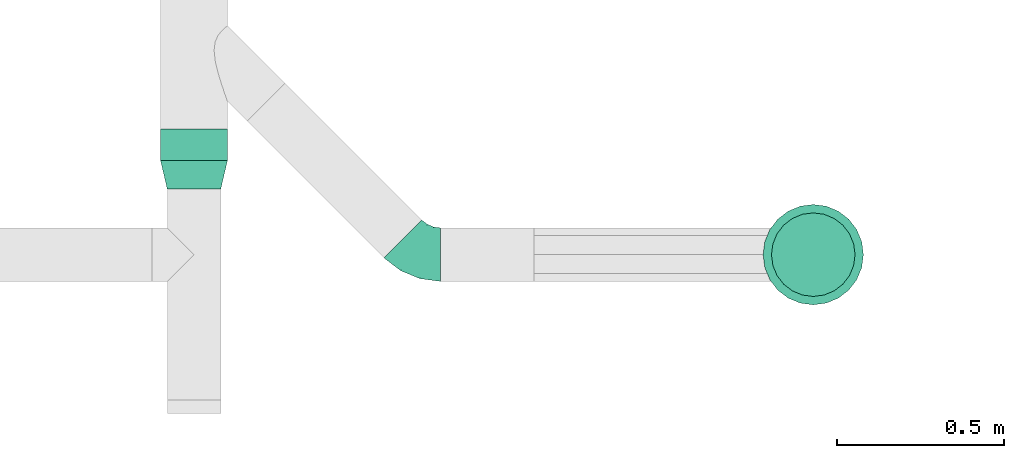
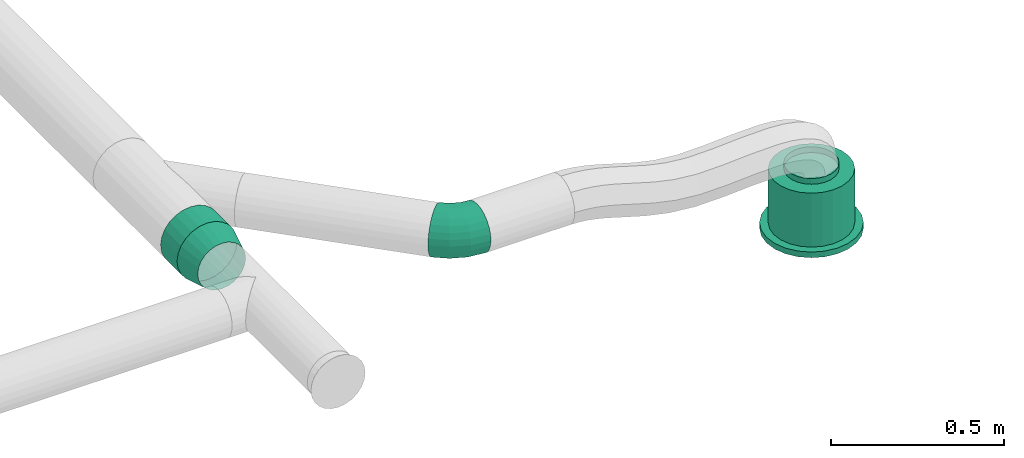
# One storey, part 9 of 119: 2 flow fittings, 1 flow segment, 1 flow terminal.
"""IFC2X3 building model written with IfcOpenShell, lengths in metres."""

from ifc_helpers import new_model, si_unit, direction, frame, origin, place, context, subcontext, project, spatial, open_shell, surface_model, source, transform, mapped, element, save


model = new_model("IFC2X3")

# Units and contexts
model_context = context("Model", 3, precision=1e-05, world=origin(), true_north=direction((-0.4480736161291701, 0.8939966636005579)))
body_context = subcontext(model_context, "Body", "Model", "MODEL_VIEW")
ifc_project = project(units=[si_unit("LENGTHUNIT", "METRE"), si_unit("AREAUNIT", "SQUARE_METRE"), si_unit("VOLUMEUNIT", "CUBIC_METRE"), si_unit("PLANEANGLEUNIT", "RADIAN"), si_unit("THERMODYNAMICTEMPERATUREUNIT", "KELVIN"), si_unit("MASSUNIT", "GRAM", prefix="KILO"), si_unit("TIMEUNIT", "SECOND")], contexts=[model_context])

# Site, building, storey
site_placement = place(None, origin())
site = spatial("IfcSite", under=ifc_project, at=site_placement, Name="Site 1", CompositionType="ELEMENT")
building_placement = place(site_placement, origin())
building = spatial("IfcBuilding", under=site, at=building_placement, Name="Undefined", CompositionType="ELEMENT")
storey_placement = place(building_placement, frame((0.0, 0.0, 5.4)))
storey = spatial("IfcBuildingStorey", under=building, at=storey_placement, Name="R+1", CompositionType="ELEMENT", Elevation=5.4)

# Flow terminal
shared_shape_1 = source(origin(), body_context, "Body", "SurfaceModel", [
    surface_model("IfcFaceBasedSurfaceModel", [(0.0, 0.0, 0.0), (0.03915785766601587, 0.0, 0.0), (0.03915785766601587, 0.020000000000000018, 0.0), (3.552713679e-15, 0.020000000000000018, 0.0), (0.07698144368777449, 0.0, -0.010134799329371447), (0.07698144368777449, 0.020000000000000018, -0.010134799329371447), (0.11089314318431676, 0.0, -0.02971372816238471), (0.11089314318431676, 0.020000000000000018, -0.02971372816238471), (0.13858192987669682, 0.0, -0.05740251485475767), (0.13858192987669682, 0.020000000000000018, -0.05740251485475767), (0.15816085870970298, 0.0, -0.09131421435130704), (0.15816085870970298, 0.020000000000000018, -0.09131421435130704), (0.16829565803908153, 0.0, -0.12913780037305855), (0.16829565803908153, 0.020000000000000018, -0.12913780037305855), (0.16829565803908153, 0.0, -0.16829565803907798), (0.16829565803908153, 0.020000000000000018, -0.16829565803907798), (0.15816085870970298, 0.0, -0.20611924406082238), (0.15816085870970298, 0.020000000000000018, -0.20611924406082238), (0.13858192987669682, 0.0, -0.24003094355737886), (0.13858192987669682, 0.020000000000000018, -0.24003094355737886), (0.11089314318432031, 0.0, -0.2677197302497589), (0.11089314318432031, 0.020000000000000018, -0.2677197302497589), (0.07698144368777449, 0.0, -0.2872986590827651), (0.07698144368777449, 0.020000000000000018, -0.2872986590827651), (0.039157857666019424, 0.0, -0.29743345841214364), (0.039157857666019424, 0.020000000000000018, -0.29743345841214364), (3.552713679e-15, 0.0, -0.29743345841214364), (3.552713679e-15, 0.020000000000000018, -0.29743345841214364), (-0.03782358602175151, 0.0, -0.2872986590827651), (-0.03782358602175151, 0.020000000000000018, -0.2872986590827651), (-0.07173528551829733, 0.0, -0.2677197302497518), (-0.07173528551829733, 0.020000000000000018, -0.2677197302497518), (-0.0994240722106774, 0.0, -0.24003094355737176), (-0.0994240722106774, 0.020000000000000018, -0.24003094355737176), (-0.11900300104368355, 0.0, -0.2061192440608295), (-0.11900300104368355, 0.020000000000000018, -0.2061192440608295), (-0.1291378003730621, 0.0, -0.16829565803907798), (-0.1291378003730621, 0.020000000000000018, -0.16829565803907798), (-0.1291378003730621, 0.0, -0.12913780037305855), (-0.1291378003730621, 0.020000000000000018, -0.12913780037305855), (-0.11900300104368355, 0.0, -0.09131421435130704), (-0.11900300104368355, 0.020000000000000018, -0.09131421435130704), (-0.0994240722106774, 0.0, -0.05740251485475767), (-0.0994240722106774, 0.020000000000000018, -0.05740251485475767), (-0.07173528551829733, 0.0, -0.029713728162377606), (-0.07173528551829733, 0.020000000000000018, -0.029713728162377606), (-0.03782358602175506, 0.0, -0.010134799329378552), (-0.03782358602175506, 0.020000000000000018, -0.010134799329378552), (0.019578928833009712, 0.0, -0.14871672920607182), (0.019578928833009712, 0.020000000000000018, -0.14871672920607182), (0.003263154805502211, 0.020000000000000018, -0.02478612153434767), (0.035894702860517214, 0.020000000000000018, -0.02478612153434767), (0.035894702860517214, 0.20999999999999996, -0.02478612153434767), (0.003263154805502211, 0.20999999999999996, -0.02478612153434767), (0.06741435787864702, 0.020000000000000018, -0.033231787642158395), (0.06741435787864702, 0.20999999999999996, -0.033231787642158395), (0.0956741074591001, 0.020000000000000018, -0.04954756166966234), (0.0956741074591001, 0.20999999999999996, -0.04954756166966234), (0.11874809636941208, 0.020000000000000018, -0.07262155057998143), (0.11874809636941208, 0.20999999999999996, -0.07262155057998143), (0.13506387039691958, 0.020000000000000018, -0.10088130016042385), (0.13506387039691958, 0.20999999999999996, -0.10088130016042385), (0.1435095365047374, 0.020000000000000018, -0.13240095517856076), (0.1435095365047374, 0.20999999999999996, -0.13240095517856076), (0.1435095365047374, 0.020000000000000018, -0.16503250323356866), (0.1435095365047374, 0.20999999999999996, -0.16503250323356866), (0.13506387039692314, 0.020000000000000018, -0.19655215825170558), (0.13506387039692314, 0.20999999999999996, -0.19655215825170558), (0.11874809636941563, 0.020000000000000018, -0.2248119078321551), (0.11874809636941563, 0.20999999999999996, -0.2248119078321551), (0.09567410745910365, 0.020000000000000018, -0.24788589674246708), (0.09567410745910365, 0.20999999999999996, -0.24788589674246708), (0.06741435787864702, 0.020000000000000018, -0.26420167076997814), (0.06741435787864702, 0.20999999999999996, -0.26420167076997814), (0.035894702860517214, 0.020000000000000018, -0.27264733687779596), (0.035894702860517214, 0.20999999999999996, -0.27264733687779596), (0.0032631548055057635, 0.020000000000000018, -0.27264733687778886), (0.0032631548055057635, 0.20999999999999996, -0.27264733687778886), (-0.028256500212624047, 0.020000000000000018, -0.26420167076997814), (-0.028256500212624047, 0.20999999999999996, -0.26420167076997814), (-0.05651624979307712, 0.020000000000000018, -0.2478858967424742), (-0.05651624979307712, 0.20999999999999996, -0.2478858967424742), (-0.07959023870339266, 0.020000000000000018, -0.2248119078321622), (-0.07959023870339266, 0.20999999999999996, -0.2248119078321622), (-0.09590601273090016, 0.020000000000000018, -0.19655215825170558), (-0.09590601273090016, 0.20999999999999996, -0.19655215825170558), (-0.10435167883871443, 0.020000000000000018, -0.16503250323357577), (-0.10435167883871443, 0.20999999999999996, -0.16503250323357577), (-0.10435167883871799, 0.020000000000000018, -0.13240095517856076), (-0.10435167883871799, 0.20999999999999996, -0.13240095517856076), (-0.09590601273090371, 0.020000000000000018, -0.10088130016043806), (-0.09590601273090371, 0.20999999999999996, -0.10088130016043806), (-0.07959023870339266, 0.020000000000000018, -0.07262155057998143), (-0.07959023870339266, 0.20999999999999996, -0.07262155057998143), (-0.056516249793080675, 0.020000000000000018, -0.04954756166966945), (-0.056516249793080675, 0.20999999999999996, -0.04954756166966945), (-0.028256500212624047, 0.020000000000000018, -0.033231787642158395), (-0.028256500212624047, 0.20999999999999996, -0.033231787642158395), (0.019578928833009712, 0.20999999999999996, -0.14871672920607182), (0.009136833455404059, 0.20999999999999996, -0.06940114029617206), (0.030021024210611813, 0.20999999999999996, -0.06940114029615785), (0.030021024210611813, 0.22999999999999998, -0.06940114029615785), (0.009136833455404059, 0.22999999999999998, -0.06940114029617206), (0.05019360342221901, 0.20999999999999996, -0.07480636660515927), (0.05019360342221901, 0.22999999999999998, -0.07480636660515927), (0.06827984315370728, 0.20999999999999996, -0.08524846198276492), (0.06827984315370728, 0.22999999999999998, -0.08524846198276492), (0.0830471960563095, 0.20999999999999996, -0.10001581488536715), (0.0830471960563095, 0.22999999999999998, -0.10001581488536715), (0.0934892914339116, 0.20999999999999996, -0.11810205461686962), (0.0934892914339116, 0.22999999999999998, -0.11810205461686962), (0.09889451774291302, 0.20999999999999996, -0.13827463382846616), (0.09889451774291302, 0.22999999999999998, -0.13827463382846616), (0.09889451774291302, 0.20999999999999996, -0.15915882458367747), (0.09889451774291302, 0.22999999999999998, -0.15915882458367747), (0.09348929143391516, 0.20999999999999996, -0.179331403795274), (0.09348929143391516, 0.22999999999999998, -0.179331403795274), (0.0830471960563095, 0.20999999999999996, -0.19741764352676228), (0.0830471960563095, 0.22999999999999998, -0.19741764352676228), (0.06827984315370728, 0.20999999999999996, -0.2121849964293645), (0.06827984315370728, 0.22999999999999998, -0.2121849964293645), (0.05019360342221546, 0.20999999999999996, -0.22262709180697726), (0.05019360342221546, 0.22999999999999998, -0.22262709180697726), (0.030021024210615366, 0.20999999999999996, -0.22803231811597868), (0.030021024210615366, 0.22999999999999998, -0.22803231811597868), (0.009136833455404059, 0.20999999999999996, -0.22803231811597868), (0.009136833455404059, 0.22999999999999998, -0.22803231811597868), (-0.011035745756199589, 0.20999999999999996, -0.22262709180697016), (-0.011035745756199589, 0.22999999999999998, -0.22262709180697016), (-0.0291219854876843, 0.20999999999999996, -0.2121849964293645), (-0.0291219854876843, 0.22999999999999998, -0.2121849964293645), (-0.043889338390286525, 0.20999999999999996, -0.19741764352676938), (-0.043889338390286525, 0.22999999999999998, -0.19741764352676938), (-0.05433143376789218, 0.20999999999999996, -0.17933140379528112), (-0.05433143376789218, 0.22999999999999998, -0.17933140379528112), (-0.05973666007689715, 0.20999999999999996, -0.15915882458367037), (-0.05973666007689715, 0.22999999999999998, -0.15915882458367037), (-0.0597366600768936, 0.20999999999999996, -0.13827463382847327), (-0.0597366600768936, 0.22999999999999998, -0.13827463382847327), (-0.05433143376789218, 0.20999999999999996, -0.11810205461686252), (-0.05433143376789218, 0.22999999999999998, -0.11810205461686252), (-0.043889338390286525, 0.20999999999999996, -0.10001581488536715), (-0.043889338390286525, 0.22999999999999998, -0.10001581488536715), (-0.02912198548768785, 0.20999999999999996, -0.08524846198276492), (-0.02912198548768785, 0.22999999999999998, -0.08524846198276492), (-0.011035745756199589, 0.20999999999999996, -0.07480636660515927), (-0.011035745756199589, 0.22999999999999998, -0.07480636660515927)], [open_shell([[[0, 1, 2, 3]], [[1, 4, 5, 2]], [[4, 6, 7, 5]], [[6, 8, 9, 7]], [[8, 10, 11, 9]], [[10, 12, 13, 11]], [[12, 14, 15, 13]], [[14, 16, 17, 15]], [[16, 18, 19, 17]], [[18, 20, 21, 19]], [[20, 22, 23, 21]], [[22, 24, 25, 23]], [[24, 26, 27, 25]], [[26, 28, 29, 27]], [[28, 30, 31, 29]], [[30, 32, 33, 31]], [[32, 34, 35, 33]], [[34, 36, 37, 35]], [[36, 38, 39, 37]], [[38, 40, 41, 39]], [[40, 42, 43, 41]], [[42, 44, 45, 43]], [[44, 46, 47, 45]], [[46, 0, 3, 47]], [[48, 1, 0]], [[48, 4, 1]], [[48, 6, 4]], [[48, 8, 6]], [[48, 10, 8]], [[48, 12, 10]], [[48, 14, 12]], [[48, 16, 14]], [[48, 18, 16]], [[48, 20, 18]], [[48, 22, 20]], [[48, 24, 22]], [[48, 26, 24]], [[48, 28, 26]], [[48, 30, 28]], [[48, 32, 30]], [[48, 34, 32]], [[48, 36, 34]], [[48, 38, 36]], [[48, 40, 38]], [[48, 42, 40]], [[48, 44, 42]], [[48, 46, 44]], [[48, 0, 46]], [[49, 47, 3]], [[49, 45, 47]], [[49, 43, 45]], [[49, 41, 43]], [[49, 39, 41]], [[49, 37, 39]], [[49, 35, 37]], [[49, 33, 35]], [[49, 31, 33]], [[49, 29, 31]], [[49, 27, 29]], [[49, 25, 27]], [[49, 23, 25]], [[49, 21, 23]], [[49, 19, 21]], [[49, 17, 19]], [[49, 15, 17]], [[49, 13, 15]], [[49, 11, 13]], [[49, 9, 11]], [[49, 7, 9]], [[49, 5, 7]], [[49, 2, 5]], [[49, 3, 2]], [[50, 51, 52, 53]], [[51, 54, 55, 52]], [[54, 56, 57, 55]], [[56, 58, 59, 57]], [[58, 60, 61, 59]], [[60, 62, 63, 61]], [[62, 64, 65, 63]], [[64, 66, 67, 65]], [[66, 68, 69, 67]], [[68, 70, 71, 69]], [[70, 72, 73, 71]], [[72, 74, 75, 73]], [[74, 76, 77, 75]], [[76, 78, 79, 77]], [[78, 80, 81, 79]], [[80, 82, 83, 81]], [[82, 84, 85, 83]], [[84, 86, 87, 85]], [[86, 88, 89, 87]], [[88, 90, 91, 89]], [[90, 92, 93, 91]], [[92, 94, 95, 93]], [[94, 96, 97, 95]], [[96, 50, 53, 97]], [[49, 51, 50]], [[49, 54, 51]], [[49, 56, 54]], [[49, 58, 56]], [[49, 60, 58]], [[49, 62, 60]], [[49, 64, 62]], [[49, 66, 64]], [[49, 68, 66]], [[49, 70, 68]], [[49, 72, 70]], [[49, 74, 72]], [[49, 76, 74]], [[49, 78, 76]], [[49, 80, 78]], [[49, 82, 80]], [[49, 84, 82]], [[49, 86, 84]], [[49, 88, 86]], [[49, 90, 88]], [[49, 92, 90]], [[49, 94, 92]], [[49, 96, 94]], [[49, 50, 96]], [[98, 97, 53]], [[98, 95, 97]], [[98, 93, 95]], [[98, 91, 93]], [[98, 89, 91]], [[98, 87, 89]], [[98, 85, 87]], [[98, 83, 85]], [[98, 81, 83]], [[98, 79, 81]], [[98, 77, 79]], [[98, 75, 77]], [[98, 73, 75]], [[98, 71, 73]], [[98, 69, 71]], [[98, 67, 69]], [[98, 65, 67]], [[98, 63, 65]], [[98, 61, 63]], [[98, 59, 61]], [[98, 57, 59]], [[98, 55, 57]], [[98, 52, 55]], [[98, 53, 52]], [[99, 100, 101, 102]], [[100, 103, 104, 101]], [[103, 105, 106, 104]], [[105, 107, 108, 106]], [[107, 109, 110, 108]], [[109, 111, 112, 110]], [[111, 113, 114, 112]], [[113, 115, 116, 114]], [[115, 117, 118, 116]], [[117, 119, 120, 118]], [[119, 121, 122, 120]], [[121, 123, 124, 122]], [[123, 125, 126, 124]], [[125, 127, 128, 126]], [[127, 129, 130, 128]], [[129, 131, 132, 130]], [[131, 133, 134, 132]], [[133, 135, 136, 134]], [[135, 137, 138, 136]], [[137, 139, 140, 138]], [[139, 141, 142, 140]], [[141, 143, 144, 142]], [[143, 145, 146, 144]], [[145, 99, 102, 146]]])]),
])
flow_terminal_placement = place(storey_placement, origin())
element("IfcFlowTerminal", 1, at=flow_terminal_placement, inside=storey, Name="Air diffuseur - bouche", ObjectType="Air diffuseur - bouche", context=body_context, shape_type="MappedRepresentation", body=[
    mapped(shared_shape_1, transform((8.163314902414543, 10.925483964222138, 2.38), x_axis=(0.13052619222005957, -0.9914448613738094, 0.0), y_axis=(0.0, 0.0, 1.0), z_axis=(-0.9914448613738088, -0.13052619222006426, 0.0))),
])

# Flow segment
shared_shape_2 = source(origin(), body_context, "Body", "SurfaceModel", [
    surface_model("IfcFaceBasedSurfaceModel", [(0.0, 0.02610523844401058, 0.0), (0.0, 0.0, 0.0), (0.09500000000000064, -7.105427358e-15, 0.0), (0.09500000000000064, 0.02610523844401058, 0.0), (0.0, -0.025215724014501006, -0.006756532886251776), (0.09500000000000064, -0.025215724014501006, -0.006756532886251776), (0.0, -0.04782352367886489, -0.019809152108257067), (0.09500000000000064, -0.04782352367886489, -0.019809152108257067), (0.0, -0.066282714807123, -0.038268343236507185), (0.09500000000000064, -0.066282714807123, -0.038268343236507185), (0.0, -0.07933533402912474, -0.06087614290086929), (0.09500000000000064, -0.07933533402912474, -0.06087614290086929), (0.0, -0.08609186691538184, -0.08609186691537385), (0.09500000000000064, -0.08609186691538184, -0.08609186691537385), (0.0, -0.08609186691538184, -0.11219710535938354), (0.09500000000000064, -0.08609186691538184, -0.11219710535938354), (0.0, -0.07933533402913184, -0.1374128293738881), (0.09500000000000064, -0.07933533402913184, -0.1374128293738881), (0.0, -0.066282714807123, -0.16002062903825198), (0.09500000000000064, -0.066282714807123, -0.16002062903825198), (0.0, -0.04782352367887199, -0.17847982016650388), (0.09500000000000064, -0.04782352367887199, -0.17847982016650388), (0.0, -0.025215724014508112, -0.19153243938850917), (0.09500000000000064, -0.025215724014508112, -0.19153243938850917), (0.0, -7.105427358e-15, -0.19828897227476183), (0.09500000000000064, -7.105427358e-15, -0.19828897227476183), (0.0, 0.026105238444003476, -0.19828897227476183), (0.09500000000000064, 0.026105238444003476, -0.19828897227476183), (0.0, 0.05132096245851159, -0.19153243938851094), (0.09500000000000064, 0.05132096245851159, -0.19153243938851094), (0.0, 0.07392876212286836, -0.17847982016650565), (0.09500000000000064, 0.07392876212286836, -0.17847982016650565), (0.0, 0.09238795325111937, -0.16002062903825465), (0.09500000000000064, 0.09238795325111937, -0.16002062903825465), (0.0, 0.10544057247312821, -0.13741282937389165), (0.09500000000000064, 0.10544057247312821, -0.13741282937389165), (0.0, 0.11219710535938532, -0.11219710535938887), (0.09500000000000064, 0.11219710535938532, -0.11219710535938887), (0.0, 0.11219710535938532, -0.08609186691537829), (0.09500000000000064, 0.11219710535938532, -0.08609186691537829), (0.0, 0.10544057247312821, -0.06087614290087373), (0.09500000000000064, 0.10544057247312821, -0.06087614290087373), (0.0, 0.09238795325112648, -0.03826834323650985), (0.09500000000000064, 0.09238795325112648, -0.03826834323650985), (0.0, 0.07392876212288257, -0.019809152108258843), (0.09500000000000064, 0.07392876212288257, -0.019809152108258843), (0.0, 0.05132096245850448, -0.006756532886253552), (0.09500000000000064, 0.05132096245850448, -0.006756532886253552)], [open_shell([[[0, 1, 2, 3]], [[1, 4, 5, 2]], [[4, 6, 7, 5]], [[6, 8, 9, 7]], [[8, 10, 11, 9]], [[10, 12, 13, 11]], [[12, 14, 15, 13]], [[14, 16, 17, 15]], [[16, 18, 19, 17]], [[18, 20, 21, 19]], [[20, 22, 23, 21]], [[22, 24, 25, 23]], [[24, 26, 27, 25]], [[26, 28, 29, 27]], [[28, 30, 31, 29]], [[30, 32, 33, 31]], [[32, 34, 35, 33]], [[34, 36, 37, 35]], [[36, 38, 39, 37]], [[38, 40, 41, 39]], [[40, 42, 43, 41]], [[42, 44, 45, 43]], [[44, 46, 47, 45]], [[46, 0, 3, 47]]])]),
])
flow_segment_placement = place(storey_placement, origin())
element("IfcFlowSegment", 2, at=flow_segment_placement, inside=storey, Name="Manchon", ObjectType="Manchon", context=body_context, shape_type="MappedRepresentation", body=[
    mapped(shared_shape_2, transform((6.435780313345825, 11.30190845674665, 2.8715925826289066), x_axis=(0.0, -1.0, 0.0), y_axis=(0.9914448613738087, 0.0, 0.13052619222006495), z_axis=(-0.13052619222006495, 0.0, 0.9914448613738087))),
])

# Flow fittings
shared_shape_3 = source(origin(), body_context, "Body", "SurfaceModel", [
    surface_model("IfcFaceBasedSurfaceModel", [(0.08732124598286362, 1.776356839e-15, 7.105427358e-15), (0.0865408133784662, 0.026093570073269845, -1.4210854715e-14), (-0.0006243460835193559, 0.020874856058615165, 0.0), (0.0, 0.0, 0.0), (0.08425270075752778, 0.05125213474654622, -0.006579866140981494), (-0.002454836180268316, 0.041001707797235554, -0.0052638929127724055), (0.08061283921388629, 0.07376117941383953, -0.019291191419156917), (-0.005366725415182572, 0.05900894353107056, -0.015432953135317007), (0.07586927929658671, 0.09208674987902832, -0.03726772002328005), (-0.00916157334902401, 0.0736693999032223, -0.029814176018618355), (0.07034528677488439, 0.10497998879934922, -0.0592843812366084), (-0.013580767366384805, 0.08398399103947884, -0.04742750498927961), (0.06441731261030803, 0.11156224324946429, -0.08384077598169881), (-0.018323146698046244, 0.08924979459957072, -0.06707262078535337), (0.0584893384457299, 0.11138494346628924, -0.10926342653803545), (-0.023065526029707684, 0.08910795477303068, -0.08741074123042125), (0.05296534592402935, 0.1044601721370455, -0.13381982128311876), (-0.027484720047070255, 0.08356813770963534, -0.1070558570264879), (0.048221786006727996, 0.09125984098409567, -0.15583648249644), (-0.03127956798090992, 0.07300787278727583, -0.12466918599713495), (0.04458192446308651, 0.07268353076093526, -0.17381301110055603), (-0.034191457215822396, 0.058146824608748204, -0.1390504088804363), (0.042293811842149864, 0.04999718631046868, -0.18652433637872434), (-0.03602194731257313, 0.039997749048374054, -0.1492194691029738), (0.04151337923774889, 0.024746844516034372, -0.19310420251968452), (-0.03664629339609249, 0.019797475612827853, -0.1544833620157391), (0.042293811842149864, -0.0013467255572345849, -0.19310420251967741), (-0.03602194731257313, -0.0010773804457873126, -0.1544833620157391), (0.04458192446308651, -0.026505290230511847, -0.18652433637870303), (-0.034191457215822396, -0.021204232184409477, -0.14921946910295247), (0.048221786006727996, -0.049014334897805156, -0.1738130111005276), (-0.03127956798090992, -0.03921146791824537, -0.13905040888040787), (0.05296534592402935, -0.06733990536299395, -0.15583648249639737), (-0.027484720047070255, -0.05387192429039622, -0.12466918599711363), (0.0584893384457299, -0.08023314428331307, -0.13381982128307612), (-0.023065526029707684, -0.06418651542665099, -0.10705585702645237), (0.06441731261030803, -0.08681539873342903, -0.10926342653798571), (-0.018323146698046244, -0.06945231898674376, -0.08741074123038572), (0.07034528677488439, -0.0866380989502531, -0.08384077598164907), (-0.013580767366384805, -0.06931047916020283, -0.06707262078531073), (0.07586927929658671, -0.07971332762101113, -0.05928438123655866), (-0.00916157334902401, -0.06377066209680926, -0.047427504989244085), (0.08061283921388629, -0.0665129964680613, -0.03726772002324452), (-0.005366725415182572, -0.05321039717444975, -0.029814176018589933), (0.08425270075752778, -0.047936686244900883, -0.019291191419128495), (-0.002454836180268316, -0.03834934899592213, -0.015432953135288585), (0.0865408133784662, -0.02525034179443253, -0.006579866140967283), (-0.0006243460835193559, -0.0202002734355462, -0.0052638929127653)], [open_shell([[[0, 1, 2, 3]], [[1, 4, 5, 2]], [[4, 6, 7, 5]], [[6, 8, 9, 7]], [[8, 10, 11, 9]], [[10, 12, 13, 11]], [[12, 14, 15, 13]], [[14, 16, 17, 15]], [[16, 18, 19, 17]], [[18, 20, 21, 19]], [[20, 22, 23, 21]], [[22, 24, 25, 23]], [[24, 26, 27, 25]], [[26, 28, 29, 27]], [[28, 30, 31, 29]], [[30, 32, 33, 31]], [[32, 34, 35, 33]], [[34, 36, 37, 35]], [[36, 38, 39, 37]], [[38, 40, 41, 39]], [[40, 42, 43, 41]], [[42, 44, 45, 43]], [[44, 46, 47, 45]], [[46, 0, 3, 47]]])]),
])
flow_fitting_1_placement = place(storey_placement, origin())
element("IfcFlowFitting", 3, at=flow_fitting_1_placement, inside=storey, Name="Réduction conique", ObjectType="Réduction conique", context=body_context, shape_type="MappedRepresentation", body=[
    mapped(shared_shape_3, transform((6.381662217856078, 11.12190845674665, 2.775), x_axis=(-0.22903933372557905, 0.9734171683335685, 0.0), y_axis=(0.12373422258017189, 0.02911393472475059, -0.9918882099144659), z_axis=(-0.9655210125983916, -0.22718141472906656, -0.1271132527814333))),
])
shared_shape_4 = source(origin(), body_context, "Body", "SurfaceModel", [
    surface_model("IfcFaceBasedSurfaceModel", [(0.06265257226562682, -8.8817842e-16, 0.0), (0.062296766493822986, 0.02088115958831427, -7.105427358e-15), (0.0003558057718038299, 0.020881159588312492, 7.105427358e-15), (0.0, 0.0, 0.0), (-0.059474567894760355, 0.022956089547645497, -0.015896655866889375), (-0.06051773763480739, 0.002098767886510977, -0.01607928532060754), (-0.11311701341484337, 0.02696454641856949, -0.04660663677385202), (-0.11477645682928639, 0.006153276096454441, -0.04714207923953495), (0.061253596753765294, 0.04103889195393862, -0.0053597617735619), (0.0013989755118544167, 0.04103889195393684, -0.005359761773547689), (-0.05641614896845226, 0.04304393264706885, -0.02072097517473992), (-0.10825177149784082, 0.04691737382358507, -0.050396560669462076), (0.05959415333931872, 0.05909948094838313, -0.01571402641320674), (0.003058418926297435, 0.05909948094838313, -0.01571402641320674), (-0.05155090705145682, 0.06099334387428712, -0.030223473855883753), (-0.10051228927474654, 0.06465200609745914, -0.058253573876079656), (0.057431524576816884, 0.07383212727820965, -0.030357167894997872), (0.005221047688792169, 0.07383212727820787, -0.03035716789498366), (-0.0452104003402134, 0.07558110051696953, -0.04375657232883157), (-0.09042599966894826, 0.07895985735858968, -0.06964223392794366), (0.054913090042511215, 0.0842328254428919, -0.048291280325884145), (0.007739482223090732, 0.08423282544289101, -0.04829128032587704), (-0.037826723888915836, 0.08581307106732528, -0.06039801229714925), (-0.07868026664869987, 0.08886587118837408, -0.08378642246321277), (0.05221047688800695, 0.0895927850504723, -0.06829418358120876), (0.010442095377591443, 0.08959278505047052, -0.06829418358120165), (-0.029903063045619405, 0.09099196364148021, -0.07901370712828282), (-0.06607554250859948, 0.09369496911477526, -0.0997222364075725), (0.04950786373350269, 0.08954673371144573, -0.08900271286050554), (0.013144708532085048, 0.08954673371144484, -0.08900271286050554), (-0.02197940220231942, 0.09076484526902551, -0.09833502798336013), (-0.05347081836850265, 0.09311805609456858, -0.11636367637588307), (0.04698942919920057, 0.08409780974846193, -0.10900561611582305), (0.015663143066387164, 0.08409780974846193, -0.10900561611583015), (-0.014595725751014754, 0.08514719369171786, -0.11704525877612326), (-0.0417250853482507, 0.0871744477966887, -0.13257665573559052), (0.04482680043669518, 0.0736173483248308, -0.12693972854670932), (0.017825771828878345, 0.0736173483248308, -0.12693972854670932), (-0.008255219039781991, 0.07452184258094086, -0.13386932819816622), (-0.03163879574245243, 0.0762691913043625, -0.14725628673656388), (0.04316735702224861, 0.058819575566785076, -0.14158287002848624), (0.019485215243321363, 0.058819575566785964, -0.14158287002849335), (-0.0033899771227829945, 0.05961289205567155, -0.14766070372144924), (-0.02389931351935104, 0.06114546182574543, -0.15940217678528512), (0.04212418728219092, 0.040712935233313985, -0.15193713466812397), (0.020528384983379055, 0.040712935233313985, -0.15193713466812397), (-0.0003315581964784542, 0.041436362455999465, -0.15747952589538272), (-0.019034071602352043, 0.04283391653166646, -0.16818660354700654), (0.04176838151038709, 0.02053136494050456, -0.15729689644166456), (0.020884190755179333, 0.02053136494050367, -0.15729689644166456), (0.0007116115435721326, 0.021230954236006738, -0.16265665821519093), (-0.017374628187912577, 0.022582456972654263, -0.17301092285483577), (0.04212418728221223, -0.000349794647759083, -0.15729689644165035), (0.020528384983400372, -0.000349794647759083, -0.15729689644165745), (-0.0003315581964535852, 0.00037363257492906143, -0.1628392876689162), (-0.019034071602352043, 0.0017711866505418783, -0.17354636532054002), (0.04316735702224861, -0.020507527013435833, -0.15193713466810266), (0.019485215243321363, -0.020507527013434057, -0.15193713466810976), (-0.0033899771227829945, -0.019714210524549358, -0.15801496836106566), (-0.02389931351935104, -0.01818164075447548, -0.16975644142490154), (0.04482680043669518, -0.03856811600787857, -0.1415828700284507), (0.017825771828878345, -0.03856811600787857, -0.1415828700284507), (-0.008255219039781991, -0.03766362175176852, -0.1485124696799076), (-0.03163879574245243, -0.03591627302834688, -0.16189942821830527), (0.04698942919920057, -0.05330076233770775, -0.12693972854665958), (0.015663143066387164, -0.05330076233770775, -0.12693972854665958), (-0.014595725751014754, -0.05225137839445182, -0.1349793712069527), (-0.0417250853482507, -0.05022412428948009, -0.15051076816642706), (0.04950786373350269, -0.06370146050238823, -0.10900561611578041), (0.013144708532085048, -0.06370146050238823, -0.10900561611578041), (-0.02197940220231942, -0.06248334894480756, -0.11833793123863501), (-0.05347081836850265, -0.06013013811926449, -0.13636657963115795), (0.05221047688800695, -0.06906142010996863, -0.08900271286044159), (0.010442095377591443, -0.06906142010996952, -0.08900271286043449), (-0.029903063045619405, -0.06766224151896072, -0.09972223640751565), (-0.06607554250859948, -0.06495923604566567, -0.12043076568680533), (0.054913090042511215, -0.06901536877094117, -0.06829418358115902), (0.007739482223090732, -0.06901536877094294, -0.06829418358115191), (-0.037826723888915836, -0.06743512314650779, -0.08040091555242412), (-0.07868026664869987, -0.06438232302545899, -0.10378932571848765), (0.057431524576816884, -0.06356644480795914, -0.0482912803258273), (0.005221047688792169, -0.06356644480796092, -0.04829128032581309), (-0.0452104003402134, -0.061817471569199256, -0.0616906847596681), (-0.09042599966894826, -0.05843871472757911, -0.0875763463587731), (0.05959415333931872, -0.05308598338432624, -0.030357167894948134), (0.003058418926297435, -0.05308598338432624, -0.030357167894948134), (-0.05155090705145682, -0.05119212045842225, -0.04486661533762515), (-0.10051228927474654, -0.04753345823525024, -0.07289671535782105), (0.061253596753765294, -0.03828821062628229, -0.015714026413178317), (0.0013989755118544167, -0.03828821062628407, -0.015714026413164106), (-0.05641614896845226, -0.03628316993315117, -0.031075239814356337), (-0.10825177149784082, -0.03240972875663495, -0.06075082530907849), (0.062296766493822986, -0.020181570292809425, -0.005359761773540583), (0.0003558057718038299, -0.020181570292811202, -0.0053597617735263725), (-0.059474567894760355, -0.018106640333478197, -0.021256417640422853), (-0.11311701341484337, -0.014098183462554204, -0.051966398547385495)], [open_shell([[[0, 1, 2, 3]], [[3, 2, 4, 5]], [[5, 4, 6, 7]], [[1, 8, 9, 2]], [[2, 9, 10, 4]], [[4, 10, 11, 6]], [[8, 12, 13, 9]], [[9, 13, 14, 10]], [[10, 14, 15, 11]], [[12, 16, 17, 13]], [[13, 17, 18, 14]], [[14, 18, 19, 15]], [[16, 20, 21, 17]], [[17, 21, 22, 18]], [[18, 22, 23, 19]], [[20, 24, 25, 21]], [[21, 25, 26, 22]], [[22, 26, 27, 23]], [[24, 28, 29, 25]], [[25, 29, 30, 26]], [[26, 30, 31, 27]], [[28, 32, 33, 29]], [[29, 33, 34, 30]], [[30, 34, 35, 31]], [[32, 36, 37, 33]], [[33, 37, 38, 34]], [[34, 38, 39, 35]], [[36, 40, 41, 37]], [[37, 41, 42, 38]], [[38, 42, 43, 39]], [[40, 44, 45, 41]], [[41, 45, 46, 42]], [[42, 46, 47, 43]], [[44, 48, 49, 45]], [[45, 49, 50, 46]], [[46, 50, 51, 47]], [[48, 52, 53, 49]], [[49, 53, 54, 50]], [[50, 54, 55, 51]], [[52, 56, 57, 53]], [[53, 57, 58, 54]], [[54, 58, 59, 55]], [[56, 60, 61, 57]], [[57, 61, 62, 58]], [[58, 62, 63, 59]], [[60, 64, 65, 61]], [[61, 65, 66, 62]], [[62, 66, 67, 63]], [[64, 68, 69, 65]], [[65, 69, 70, 66]], [[66, 70, 71, 67]], [[68, 72, 73, 69]], [[69, 73, 74, 70]], [[70, 74, 75, 71]], [[72, 76, 77, 73]], [[73, 77, 78, 74]], [[74, 78, 79, 75]], [[76, 80, 81, 77]], [[77, 81, 82, 78]], [[78, 82, 83, 79]], [[80, 84, 85, 81]], [[81, 85, 86, 82]], [[82, 86, 87, 83]], [[84, 88, 89, 85]], [[85, 89, 90, 86]], [[86, 90, 91, 87]], [[88, 92, 93, 89]], [[89, 93, 94, 90]], [[90, 94, 95, 91]], [[92, 0, 3, 93]], [[93, 3, 5, 94]], [[94, 5, 7, 95]]])]),
])
flow_fitting_2_placement = place(storey_placement, origin())
element("IfcFlowFitting", 4, at=flow_fitting_2_placement, inside=storey, Name="Coude", ObjectType="Coude", context=body_context, shape_type="MappedRepresentation", body=[
    mapped(shared_shape_4, transform((7.079360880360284, 10.877637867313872, 2.775), x_axis=(-0.7933533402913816, 0.6087614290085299, 0.0), y_axis=(0.07879096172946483, 0.10268238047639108, -0.9915887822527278), z_axis=(-0.603641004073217, -0.7866802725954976, -0.1294283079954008))),
])

save(model, "model.ifc")
